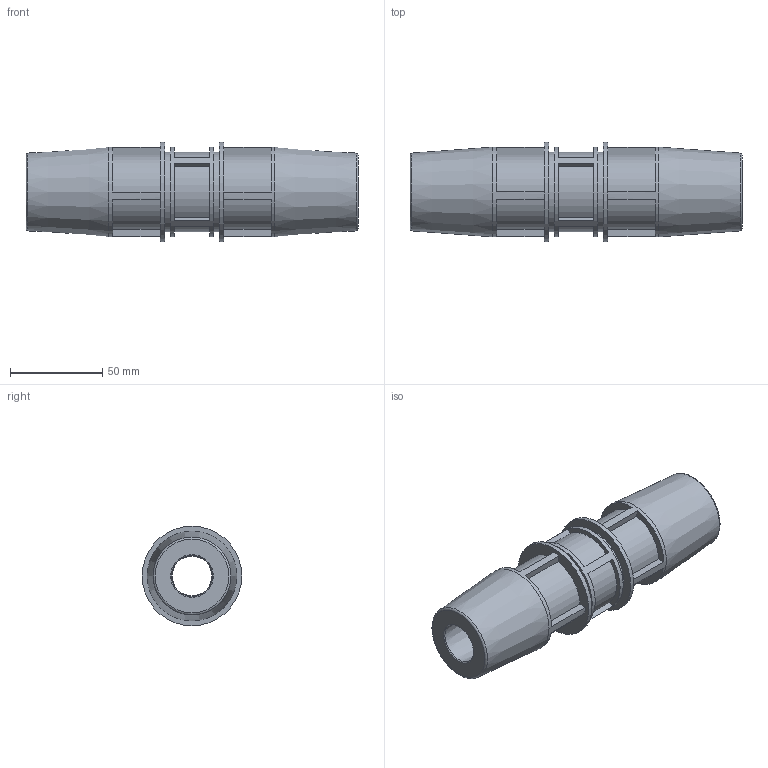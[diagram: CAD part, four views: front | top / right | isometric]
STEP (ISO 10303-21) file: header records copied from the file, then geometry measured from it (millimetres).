
FILE_DESCRIPTION(/* description */ ('PLASSON UNIVERSAL SLIP REPAIR COUPLER 19-22 SERIES 17'),/* implementation_level */ '2;1');
FILE_NAME(/* name */ 'C:\Users\comp2\Dropbox\99-16-3568-Processing\S1\17610\176100019022_196100019022.ipt.stp',/* time_stamp */ '2020-12-10T13:56:07+02:00',/* author */ ('KIM'),/* organization */ (''),/* preprocessor_version */ 'ST-DEVELOPER v17.2',/* originating_system */ 'Autodesk Inventor 2019',/* authorisation */ '');
FILE_SCHEMA (('AUTOMOTIVE_DESIGN { 1 0 10303 214 3 1 1 }'));
Length unit declared in the file: millimetre
Products named in the file (1): 176100014018_196100014018
Bounding box: 180 x 54 x 54 mm (x, y, z)
Volume: 207983.9 mm3; surface area: 48149.4 mm2
Topology: 1 solids, 1 shells, 78 faces, 211 edges, 146 vertices
Faces by surface type: plane 50, cylinder 20, cone 6, torus 2
Full cylindrical faces by diameter (mm): 21.56 x1, 43.2 x2, 48.6 x3, 54 x2
Entity records: 2568 total; most frequent: DIRECTION 469, CARTESIAN_POINT 436, ORIENTED_EDGE 422, EDGE_CURVE 211, AXIS2_PLACEMENT_3D 179, VERTEX_POINT 146, LINE 111, VECTOR 111
